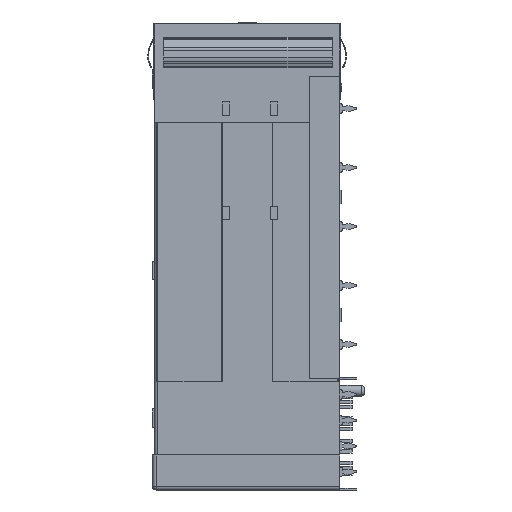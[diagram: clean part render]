
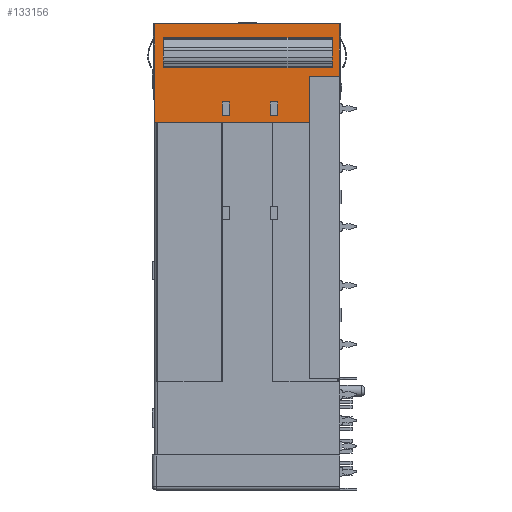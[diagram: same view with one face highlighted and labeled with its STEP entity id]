
A CAD part, left-side view. The second image highlights one B-rep face of the part: STEP entity #133156.
In plain terms, the highlighted planar face has unit normal (-1, 0, 0).
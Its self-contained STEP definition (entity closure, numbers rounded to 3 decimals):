
#188 = LINE ( 'NONE', #112568, #54242 ) ;
#386 = ORIENTED_EDGE ( 'NONE', *, *, #117457, .F. ) ;
#385 = DIRECTION ( 'NONE',  ( 0., 0., -1. ) ) ;
#1505 = VERTEX_POINT ( 'NONE', #139082 ) ;
#1696 = ORIENTED_EDGE ( 'NONE', *, *, #41798, .T. ) ;
#6132 = CARTESIAN_POINT ( 'NONE',  ( -43., 23.95, -1.9 ) ) ;
#6529 = DIRECTION ( 'NONE',  ( 0., 0., 1. ) ) ;
#6765 = ORIENTED_EDGE ( 'NONE', *, *, #132154, .T. ) ;
#6967 = EDGE_CURVE ( 'NONE', #44327, #99978, #79201, .T. ) ;
#7417 = VERTEX_POINT ( 'NONE', #48105 ) ;
#7614 = VERTEX_POINT ( 'NONE', #51828 ) ;
#8168 = ORIENTED_EDGE ( 'NONE', *, *, #27089, .T. ) ;
#9030 = VERTEX_POINT ( 'NONE', #100996 ) ;
#9174 = EDGE_CURVE ( 'NONE', #14567, #61665, #60041, .T. ) ;
#10820 = CARTESIAN_POINT ( 'NONE',  ( -43., 25.2, -13.4 ) ) ;
#12013 = ORIENTED_EDGE ( 'NONE', *, *, #123385, .T. ) ;
#13895 = ORIENTED_EDGE ( 'NONE', *, *, #9174, .T. ) ;
#13938 = VECTOR ( 'NONE', #19865, 1000. ) ;
#14567 = VERTEX_POINT ( 'NONE', #116241 ) ;
#14968 = EDGE_LOOP ( 'NONE', ( #13895, #25460, #44240, #26642 ) ) ;
#15854 = VECTOR ( 'NONE', #96904, 1000. ) ;
#16044 = VECTOR ( 'NONE', #385, 1000. ) ;
#16432 = LINE ( 'NONE', #81985, #38370 ) ;
#19865 = DIRECTION ( 'NONE',  ( 0., 1., 0. ) ) ;
#22182 = DIRECTION ( 'NONE',  ( 0., -1., 0. ) ) ;
#24028 = VECTOR ( 'NONE', #70488, 1000. ) ;
#25460 = ORIENTED_EDGE ( 'NONE', *, *, #111278, .T. ) ;
#25576 = FACE_BOUND ( 'NONE', #103112, .T. ) ;
#26642 = ORIENTED_EDGE ( 'NONE', *, *, #117585, .T. ) ;
#27089 = EDGE_CURVE ( 'NONE', #73357, #9030, #103312, .T. ) ;
#27232 = VECTOR ( 'NONE', #40126, 1000. ) ;
#28689 = VERTEX_POINT ( 'NONE', #96013 ) ;
#28761 = DIRECTION ( 'NONE',  ( 0., 0., 1. ) ) ;
#29961 = AXIS2_PLACEMENT_3D ( 'NONE', #53055, #139471, #74734 ) ;
#30572 = VERTEX_POINT ( 'NONE', #120989 ) ;
#30636 = DIRECTION ( 'NONE',  ( 0., -1., 0. ) ) ;
#31368 = PLANE ( 'NONE',  #29961 ) ;
#32284 = CARTESIAN_POINT ( 'NONE',  ( -43., 16., 0. ) ) ;
#35419 = DIRECTION ( 'NONE',  ( 0., 1., 0. ) ) ;
#36554 = EDGE_CURVE ( 'NONE', #77115, #75251, #71368, .T. ) ;
#36678 = LINE ( 'NONE', #125440, #116113 ) ;
#38370 = VECTOR ( 'NONE', #35419, 1000. ) ;
#38678 = CARTESIAN_POINT ( 'NONE',  ( -43., 0.1, 0. ) ) ;
#40085 = ORIENTED_EDGE ( 'NONE', *, *, #140043, .T. ) ;
#40126 = DIRECTION ( 'NONE',  ( 0., 1., 0. ) ) ;
#41257 = ORIENTED_EDGE ( 'NONE', *, *, #71308, .T. ) ;
#41798 = EDGE_CURVE ( 'NONE', #30572, #92748, #16432, .T. ) ;
#42671 = LINE ( 'NONE', #73197, #13938 ) ;
#44240 = ORIENTED_EDGE ( 'NONE', *, *, #60617, .T. ) ;
#44327 = VERTEX_POINT ( 'NONE', #137205 ) ;
#45943 = ORIENTED_EDGE ( 'NONE', *, *, #52470, .T. ) ;
#45968 = CARTESIAN_POINT ( 'NONE',  ( -43., 0., -7.1 ) ) ;
#46167 = VECTOR ( 'NONE', #22182, 1000. ) ;
#47516 = CARTESIAN_POINT ( 'NONE',  ( -43., 23.95, -2.181 ) ) ;
#48105 = CARTESIAN_POINT ( 'NONE',  ( -43., 8.45, -10.6 ) ) ;
#50905 = FACE_BOUND ( 'NONE', #14968, .T. ) ;
#51828 = CARTESIAN_POINT ( 'NONE',  ( -43., 4.1, -13.4 ) ) ;
#52470 = EDGE_CURVE ( 'NONE', #99978, #28689, #130720, .T. ) ;
#53055 = CARTESIAN_POINT ( 'NONE',  ( -43., 0., 0. ) ) ;
#54209 = CARTESIAN_POINT ( 'NONE',  ( -43., 8.45, 0. ) ) ;
#54242 = VECTOR ( 'NONE', #69604, 1000. ) ;
#55693 = CARTESIAN_POINT ( 'NONE',  ( -43., 9.45, -10.6 ) ) ;
#58270 = CARTESIAN_POINT ( 'NONE',  ( -43., 4.1, 0. ) ) ;
#59299 = LINE ( 'NONE', #115659, #27232 ) ;
#60041 = LINE ( 'NONE', #93423, #117538 ) ;
#60617 = EDGE_CURVE ( 'NONE', #7417, #109448, #102161, .T. ) ;
#61665 = VERTEX_POINT ( 'NONE', #55693 ) ;
#66320 = EDGE_CURVE ( 'NONE', #75251, #30572, #118240, .T. ) ;
#66562 = CARTESIAN_POINT ( 'NONE',  ( -43., 4.1, -7.1 ) ) ;
#69604 = DIRECTION ( 'NONE',  ( 0., 0., -1. ) ) ;
#70488 = DIRECTION ( 'NONE',  ( 0., 1., 0. ) ) ;
#71308 = EDGE_CURVE ( 'NONE', #9030, #137009, #138917, .T. ) ;
#71368 = LINE ( 'NONE', #45968, #100050 ) ;
#71698 = ORIENTED_EDGE ( 'NONE', *, *, #74835, .F. ) ;
#72119 = DIRECTION ( 'NONE',  ( 0., -1., 0. ) ) ;
#72494 = VECTOR ( 'NONE', #93569, 1000. ) ;
#73197 = CARTESIAN_POINT ( 'NONE',  ( -43., 1.05, -1.9 ) ) ;
#73357 = VERTEX_POINT ( 'NONE', #113253 ) ;
#73544 = CARTESIAN_POINT ( 'NONE',  ( -43., 15., 0. ) ) ;
#74475 = CARTESIAN_POINT ( 'NONE',  ( -43., 25.1, -13.4 ) ) ;
#74571 = VECTOR ( 'NONE', #80841, 1000. ) ;
#74734 = DIRECTION ( 'NONE',  ( 0., 0., -1. ) ) ;
#74835 = EDGE_CURVE ( 'NONE', #73357, #127834, #42671, .T. ) ;
#75251 = VERTEX_POINT ( 'NONE', #94350 ) ;
#76244 = LINE ( 'NONE', #6132, #133671 ) ;
#76377 = ORIENTED_EDGE ( 'NONE', *, *, #96667, .T. ) ;
#77115 = VERTEX_POINT ( 'NONE', #66562 ) ;
#79201 = LINE ( 'NONE', #115278, #72494 ) ;
#79303 = EDGE_CURVE ( 'NONE', #1505, #44327, #109426, .T. ) ;
#79581 = FACE_OUTER_BOUND ( 'NONE', #97474, .T. ) ;
#80686 = VECTOR ( 'NONE', #84439, 1000. ) ;
#80841 = DIRECTION ( 'NONE',  ( 0., 0., -1. ) ) ;
#81674 = DIRECTION ( 'NONE',  ( 0., 0., -1. ) ) ;
#81985 = CARTESIAN_POINT ( 'NONE',  ( -43., 25.3, 0. ) ) ;
#84439 = DIRECTION ( 'NONE',  ( 0., 0., -1. ) ) ;
#88454 = VECTOR ( 'NONE', #30636, 1000. ) ;
#89363 = ORIENTED_EDGE ( 'NONE', *, *, #79303, .T. ) ;
#89498 = VECTOR ( 'NONE', #6529, 1000. ) ;
#92748 = VERTEX_POINT ( 'NONE', #124813 ) ;
#93423 = CARTESIAN_POINT ( 'NONE',  ( -43., 9.45, 0. ) ) ;
#93569 = DIRECTION ( 'NONE',  ( 0., 1., 0. ) ) ;
#94350 = CARTESIAN_POINT ( 'NONE',  ( -43., 0.1, -7.1 ) ) ;
#95265 = CARTESIAN_POINT ( 'NONE',  ( -43., 0., -10.6 ) ) ;
#96013 = CARTESIAN_POINT ( 'NONE',  ( -43., 16., -10.6 ) ) ;
#96667 = EDGE_CURVE ( 'NONE', #28689, #1505, #36678, .T. ) ;
#96890 = ORIENTED_EDGE ( 'NONE', *, *, #6967, .T. ) ;
#96904 = DIRECTION ( 'NONE',  ( 0., 0., 1. ) ) ;
#97474 = EDGE_LOOP ( 'NONE', ( #12013, #136900, #119741, #1696, #40085, #6765 ) ) ;
#99978 = VERTEX_POINT ( 'NONE', #106629 ) ;
#100050 = VECTOR ( 'NONE', #121002, 1000. ) ;
#100556 = VECTOR ( 'NONE', #122954, 1000. ) ;
#100996 = CARTESIAN_POINT ( 'NONE',  ( -43., 1.05, -2.181 ) ) ;
#102161 = LINE ( 'NONE', #54209, #16044 ) ;
#103112 = EDGE_LOOP ( 'NONE', ( #45943, #76377, #89363, #96890 ) ) ;
#103312 = LINE ( 'NONE', #123813, #74571 ) ;
#103615 = LINE ( 'NONE', #95265, #88454 ) ;
#103955 = LINE ( 'NONE', #58270, #100556 ) ;
#104193 = CARTESIAN_POINT ( 'NONE',  ( -43., 8.45, -12.4 ) ) ;
#106629 = CARTESIAN_POINT ( 'NONE',  ( -43., 16., -12.4 ) ) ;
#109426 = LINE ( 'NONE', #73544, #80686 ) ;
#109448 = VERTEX_POINT ( 'NONE', #104193 ) ;
#111278 = EDGE_CURVE ( 'NONE', #61665, #7417, #103615, .T. ) ;
#112568 = CARTESIAN_POINT ( 'NONE',  ( -43., 25.1, 0. ) ) ;
#113253 = CARTESIAN_POINT ( 'NONE',  ( -43., 1.05, -1.9 ) ) ;
#115278 = CARTESIAN_POINT ( 'NONE',  ( -43., 0., -12.4 ) ) ;
#115659 = CARTESIAN_POINT ( 'NONE',  ( -43., 0., -12.4 ) ) ;
#116113 = VECTOR ( 'NONE', #72119, 1000. ) ;
#116241 = CARTESIAN_POINT ( 'NONE',  ( -43., 9.45, -12.4 ) ) ;
#117457 = EDGE_CURVE ( 'NONE', #127834, #137009, #76244, .T. ) ;
#117538 = VECTOR ( 'NONE', #28761, 1000. ) ;
#117585 = EDGE_CURVE ( 'NONE', #109448, #14567, #59299, .T. ) ;
#118240 = LINE ( 'NONE', #38678, #89498 ) ;
#119741 = ORIENTED_EDGE ( 'NONE', *, *, #66320, .T. ) ;
#120989 = CARTESIAN_POINT ( 'NONE',  ( -43., 0.1, 0. ) ) ;
#121002 = DIRECTION ( 'NONE',  ( 0., -1., 0. ) ) ;
#122954 = DIRECTION ( 'NONE',  ( 0., 0., 1. ) ) ;
#123385 = EDGE_CURVE ( 'NONE', #7614, #77115, #103955, .T. ) ;
#123813 = CARTESIAN_POINT ( 'NONE',  ( -43., 1.05, -1.9 ) ) ;
#124266 = CARTESIAN_POINT ( 'NONE',  ( -43., 1.05, -2.181 ) ) ;
#124765 = VERTEX_POINT ( 'NONE', #74475 ) ;
#124788 = EDGE_LOOP ( 'NONE', ( #71698, #8168, #41257, #386 ) ) ;
#124813 = CARTESIAN_POINT ( 'NONE',  ( -43., 25.1, 0. ) ) ;
#125440 = CARTESIAN_POINT ( 'NONE',  ( -43., 0., -10.6 ) ) ;
#127834 = VERTEX_POINT ( 'NONE', #134099 ) ;
#130720 = LINE ( 'NONE', #32284, #15854 ) ;
#132154 = EDGE_CURVE ( 'NONE', #124765, #7614, #132298, .T. ) ;
#132298 = LINE ( 'NONE', #10820, #46167 ) ;
#133156 = ADVANCED_FACE ( 'NONE', ( #50905, #25576, #137084, #79581 ), #31368, .F. ) ;
#133671 = VECTOR ( 'NONE', #81674, 1000. ) ;
#134099 = CARTESIAN_POINT ( 'NONE',  ( -43., 23.95, -1.9 ) ) ;
#136900 = ORIENTED_EDGE ( 'NONE', *, *, #36554, .T. ) ;
#137009 = VERTEX_POINT ( 'NONE', #47516 ) ;
#137084 = FACE_BOUND ( 'NONE', #124788, .T. ) ;
#137205 = CARTESIAN_POINT ( 'NONE',  ( -43., 15., -12.4 ) ) ;
#138917 = LINE ( 'NONE', #124266, #24028 ) ;
#139082 = CARTESIAN_POINT ( 'NONE',  ( -43., 15., -10.6 ) ) ;
#139471 = DIRECTION ( 'NONE',  ( 1., 0., 0. ) ) ;
#140043 = EDGE_CURVE ( 'NONE', #92748, #124765, #188, .T. ) ;
